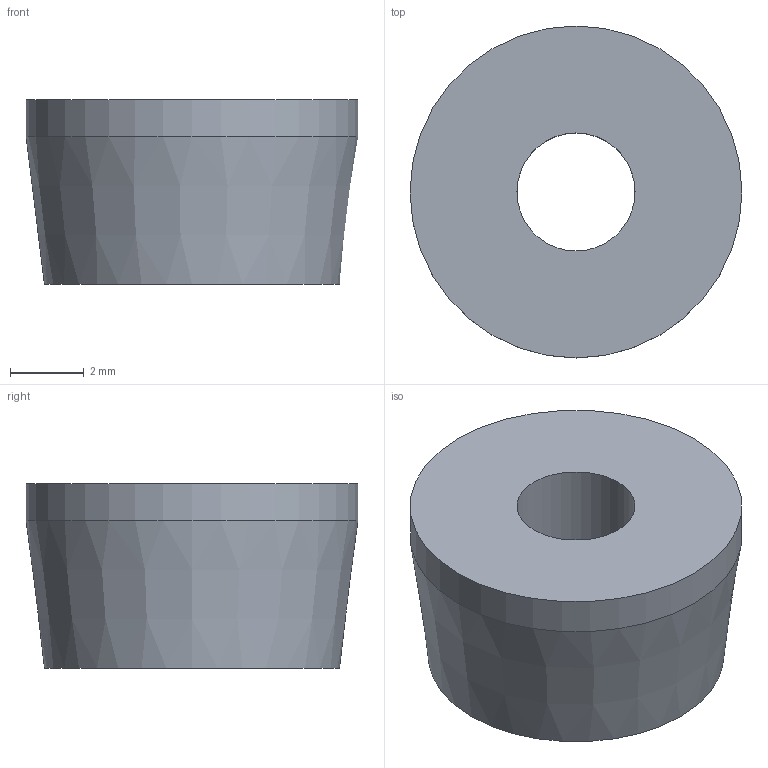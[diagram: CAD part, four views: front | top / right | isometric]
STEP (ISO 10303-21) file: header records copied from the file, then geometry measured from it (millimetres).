
FILE_DESCRIPTION(/* description */ (''),/* implementation_level */ '2;1');
FILE_NAME(/* name */ '4-51-2Shock stopper.step',/* time_stamp */ '2025-05-10T22:21:26+02:00',/* author */ (''),/* organization */ (''),/* preprocessor_version */ 'ST-DEVELOPER v20.1',/* originating_system */ 'Autodesk Translation Framework v14.4.0.0',/* authorisation */ '');
FILE_SCHEMA (('AUTOMOTIVE_DESIGN { 1 0 10303 214 3 1 1 }'));
Length unit declared in the file: millimetre
Products named in the file (1): 4-51-2Shock stopper
Bounding box: 9 x 9 x 5 mm (x, y, z)
Volume: 200.1 mm3; surface area: 306 mm2
Topology: 1 solids, 1 shells, 7 faces, 11 edges, 7 vertices
Faces by surface type: plane 3, cylinder 3, cone 1
Full cylindrical faces by diameter (mm): 3.2 x1, 6 x1, 9 x1
Entity records: 201 total; most frequent: DIRECTION 34, CARTESIAN_POINT 26, ORIENTED_EDGE 22, AXIS2_PLACEMENT_3D 15, EDGE_CURVE 11, EDGE_LOOP 10, FACE_OUTER_BOUND 7, CIRCLE 7
